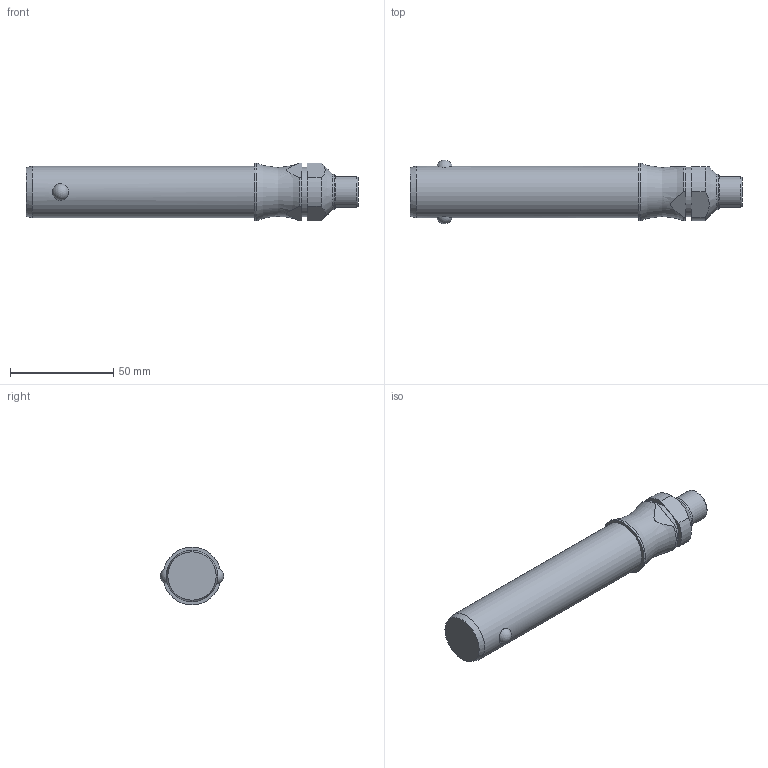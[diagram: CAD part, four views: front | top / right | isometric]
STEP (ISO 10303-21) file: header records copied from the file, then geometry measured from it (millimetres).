
FILE_DESCRIPTION( ( 'STEP AP203' ), '1' );
FILE_NAME( 'C:/Temp/Ganter_Step_05_03_2020/data/3_1/gn113_3/Stainless Steel-Ball lock pin GN 113.3-25-90 (deactivated).stp', '2020-03-12T08:19:11', ( 'License CC BY-ND 4.0' ), ( 'CADENAS' ), ' ', 'PARTsolutions', ' ' );
FILE_SCHEMA( ( 'CONFIG_CONTROL_DESIGN' ) );
Length unit declared in the file: millimetre
Products named in the file (1): _Stainless Steel-Ball lock pin GN 113.3-25-90 (deactivated)
Bounding box: 160.6 x 30.75 x 28 mm (x, y, z)
Volume: 75117.4 mm3; surface area: 13464.5 mm2
Topology: 1 solids, 1 shells, 29 faces, 62 edges, 40 vertices
Faces by surface type: plane 11, cylinder 11, cone 4, sphere 2, torus 1
Full cylindrical faces by diameter (mm): 15 x1, 17 x1, 24 x1, 25 x1, 28 x1
Entity records: 1006 total; most frequent: CARTESIAN_POINT 376, DIRECTION 126, ORIENTED_EDGE 100, AXIS2_PLACEMENT_3D 54, EDGE_CURVE 50, EDGE_LOOP 44, VERTEX_POINT 38, FACE_OUTER_BOUND 35
